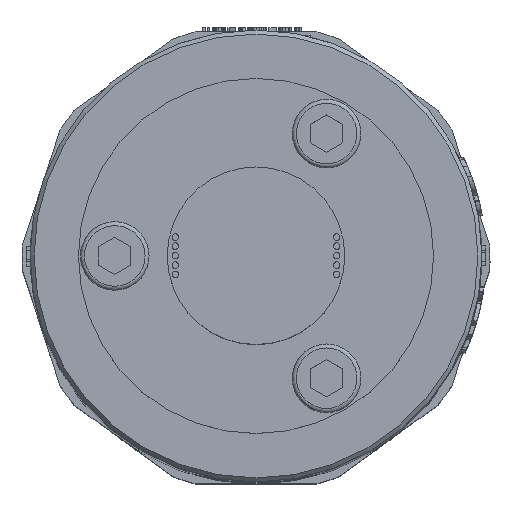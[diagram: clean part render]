
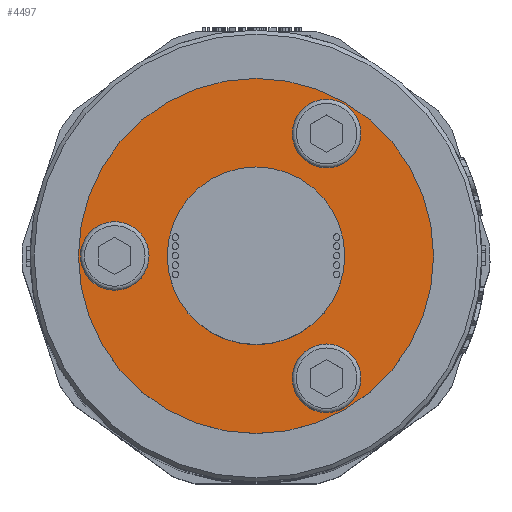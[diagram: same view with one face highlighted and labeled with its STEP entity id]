
A CAD part, top view. The second image highlights one B-rep face of the part: STEP entity #4497.
In plain terms, the highlighted planar face has unit normal (0, 0, 1).
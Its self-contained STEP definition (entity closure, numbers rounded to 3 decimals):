
#692=FACE_BOUND('',#7528,.T.);
#693=FACE_BOUND('',#7529,.T.);
#694=FACE_BOUND('',#7530,.T.);
#695=FACE_BOUND('',#7531,.T.);
#696=FACE_BOUND('',#7532,.T.);
#990=CIRCLE('',#21917,4.25);
#992=CIRCLE('',#21928,4.25);
#995=CIRCLE('',#21941,4.25);
#1019=CIRCLE('',#21998,11.);
#1020=CIRCLE('',#22000,22.);
#4497=ADVANCED_FACE('',(#692,#693,#694,#695,#696),#5052,.T.);
#5052=PLANE('',#22001);
#7528=EDGE_LOOP('',(#13536));
#7529=EDGE_LOOP('',(#13537));
#7530=EDGE_LOOP('',(#13538));
#7531=EDGE_LOOP('',(#13539));
#7532=EDGE_LOOP('',(#13540));
#13536=ORIENTED_EDGE('',*,*,#18482,.F.);
#13537=ORIENTED_EDGE('',*,*,#18496,.F.);
#13538=ORIENTED_EDGE('',*,*,#18517,.F.);
#13539=ORIENTED_EDGE('',*,*,#18560,.T.);
#13540=ORIENTED_EDGE('',*,*,#18559,.F.);
#15558=VERTEX_POINT('',#42695);
#15566=VERTEX_POINT('',#42726);
#15581=VERTEX_POINT('',#42772);
#15617=VERTEX_POINT('',#42883);
#15618=VERTEX_POINT('',#42886);
#18482=EDGE_CURVE('',#15558,#15558,#990,.T.);
#18496=EDGE_CURVE('',#15566,#15566,#992,.T.);
#18517=EDGE_CURVE('',#15581,#15581,#995,.T.);
#18559=EDGE_CURVE('',#15617,#15617,#1019,.T.);
#18560=EDGE_CURVE('',#15618,#15618,#1020,.T.);
#21917=AXIS2_PLACEMENT_3D('',#42694,#25102,#25103);
#21928=AXIS2_PLACEMENT_3D('',#42725,#25136,#25137);
#21941=AXIS2_PLACEMENT_3D('',#42771,#25180,#25181);
#21998=AXIS2_PLACEMENT_3D('',#42882,#25312,#25313);
#22000=AXIS2_PLACEMENT_3D('',#42885,#25316,#25317);
#22001=AXIS2_PLACEMENT_3D('',#42887,#25318,#25319);
#25102=DIRECTION('',(0.,0.,1.));
#25103=DIRECTION('',(-0.866,0.5,0.));
#25136=DIRECTION('',(0.,0.,1.));
#25137=DIRECTION('',(-0.866,0.5,0.));
#25180=DIRECTION('',(0.,0.,1.));
#25181=DIRECTION('',(-0.866,0.5,0.));
#25312=DIRECTION('',(0.,0.,1.));
#25313=DIRECTION('',(1.,0.,0.));
#25316=DIRECTION('',(0.,0.,1.));
#25317=DIRECTION('',(1.,0.,0.));
#25318=DIRECTION('',(0.,0.,1.));
#25319=DIRECTION('',(-1.,0.,0.));
#42694=CARTESIAN_POINT('',(8.75,-15.155,152.5));
#42695=CARTESIAN_POINT('',(5.069,-13.03,152.5));
#42725=CARTESIAN_POINT('',(8.75,15.155,152.5));
#42726=CARTESIAN_POINT('',(5.069,17.28,152.5));
#42771=CARTESIAN_POINT('',(-17.5,0.,152.5));
#42772=CARTESIAN_POINT('',(-21.181,2.125,152.5));
#42882=CARTESIAN_POINT('',(0.,0.,152.5));
#42883=CARTESIAN_POINT('',(11.,0.,152.5));
#42885=CARTESIAN_POINT('',(0.,0.,152.5));
#42886=CARTESIAN_POINT('',(22.,0.,152.5));
#42887=CARTESIAN_POINT('',(0.,0.,152.5));
